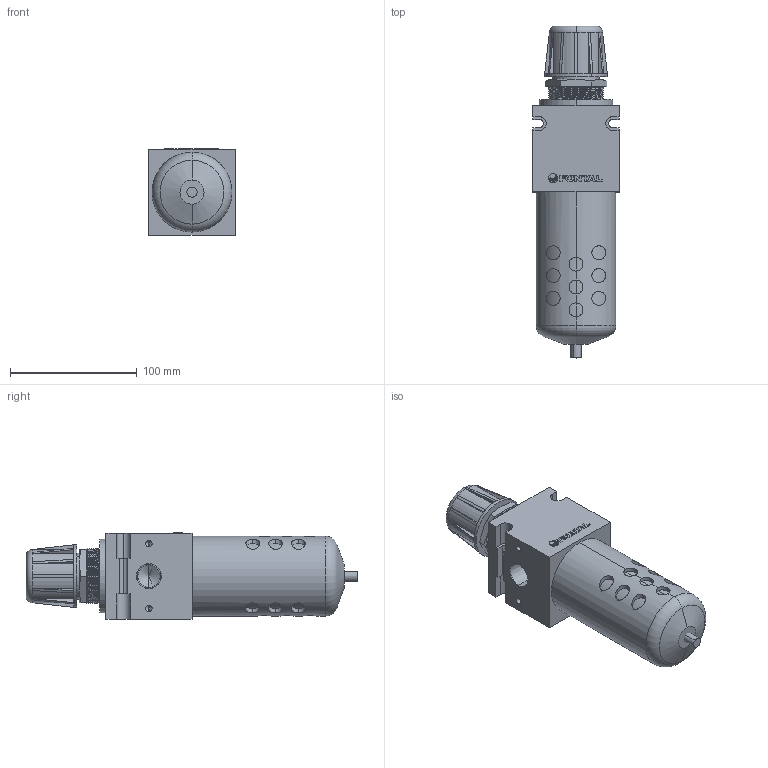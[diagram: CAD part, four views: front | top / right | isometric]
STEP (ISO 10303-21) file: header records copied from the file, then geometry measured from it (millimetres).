
FILE_DESCRIPTION (( 'STEP AP203' ), '1' );
FILE_NAME ('B105#-04#Y##.STEP', '2016-01-14T19:02:45', ( '' ), ( '' ), 'SwSTEP 2.0', 'SolidWorks 2014', '' );
FILE_SCHEMA (( 'CONFIG_CONTROL_DESIGN' ));
Length unit declared in the file: millimetre
Products named in the file (10): R105-2; R105-6; Y排水; F105-04; B105#-04#Y##; R105-1; R010-4; R105-3; F105-MARK; F105-2
Assembly tree (9 placements, depth 3):
  B105#-04#Y##
    R010-4
    R105-3
    R105-2
    R105-6
    F105-04
      F105-2
      Y排水
      F105-MARK
      R105-1
Bounding box: 68 x 262 x 68.2 mm (x, y, z)
Volume: 739288.4 mm3; surface area: 90290.9 mm2
Topology: 14 solids, 14 shells, 365 faces, 907 edges, 579 vertices
Faces by surface type: plane 185, cylinder 140, cone 26, bspline 10, torus 4
Entity records: 15533 total; most frequent: CARTESIAN_POINT 6065, ORIENTED_EDGE 1790, DIRECTION 1665, EDGE_CURVE 895, VERTEX_POINT 579, AXIS2_PLACEMENT_3D 566, LINE 533, VECTOR 533
